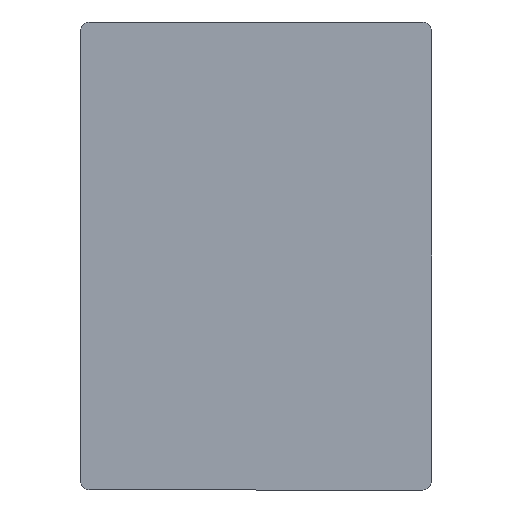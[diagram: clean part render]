
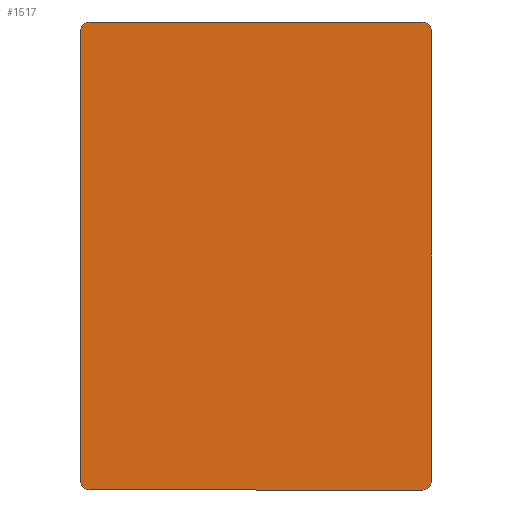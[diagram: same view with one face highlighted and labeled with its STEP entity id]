
A CAD part, left-side view. The second image highlights one B-rep face of the part: STEP entity #1517.
In plain terms, the highlighted planar face has unit normal (-1, 0, 0) as drawn and (0, 0, 1) by its records, which use the part's own axes.
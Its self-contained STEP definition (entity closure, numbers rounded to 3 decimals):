
#75=PLANE('',#1718);
#239=FACE_OUTER_BOUND('',#363,.T.);
#363=EDGE_LOOP('',(#1224,#1225,#1226,#1227,#1228,#1229,#1230,#1231));
#484=LINE('',#2593,#564);
#490=LINE('',#2617,#570);
#493=LINE('',#2625,#573);
#499=LINE('',#2653,#579);
#564=VECTOR('',#2005,10.);
#570=VECTOR('',#2029,10.);
#573=VECTOR('',#2038,10.);
#579=VECTOR('',#2074,10.);
#648=CIRCLE('',#1688,3.);
#655=CIRCLE('',#1698,3.);
#656=CIRCLE('',#1701,3.);
#659=CIRCLE('',#1706,3.);
#766=VERTEX_POINT('',#2580);
#767=VERTEX_POINT('',#2581);
#771=VERTEX_POINT('',#2591);
#779=VERTEX_POINT('',#2611);
#780=VERTEX_POINT('',#2615);
#781=VERTEX_POINT('',#2619);
#782=VERTEX_POINT('',#2623);
#785=VERTEX_POINT('',#2631);
#913=EDGE_CURVE('',#766,#767,#648,.T.);
#919=EDGE_CURVE('',#766,#771,#484,.T.);
#928=EDGE_CURVE('',#779,#771,#655,.T.);
#931=EDGE_CURVE('',#779,#780,#490,.T.);
#932=EDGE_CURVE('',#781,#780,#656,.T.);
#935=EDGE_CURVE('',#781,#782,#493,.T.);
#938=EDGE_CURVE('',#785,#782,#659,.T.);
#948=EDGE_CURVE('',#785,#767,#499,.T.);
#1224=ORIENTED_EDGE('',*,*,#913,.F.);
#1225=ORIENTED_EDGE('',*,*,#919,.T.);
#1226=ORIENTED_EDGE('',*,*,#928,.F.);
#1227=ORIENTED_EDGE('',*,*,#931,.T.);
#1228=ORIENTED_EDGE('',*,*,#932,.F.);
#1229=ORIENTED_EDGE('',*,*,#935,.T.);
#1230=ORIENTED_EDGE('',*,*,#938,.F.);
#1231=ORIENTED_EDGE('',*,*,#948,.T.);
#1517=ADVANCED_FACE('',(#239),#75,.T.);
#1688=AXIS2_PLACEMENT_3D('',#2582,#1995,#1996);
#1698=AXIS2_PLACEMENT_3D('',#2612,#2023,#2024);
#1701=AXIS2_PLACEMENT_3D('',#2620,#2032,#2033);
#1706=AXIS2_PLACEMENT_3D('',#2632,#2045,#2046);
#1718=AXIS2_PLACEMENT_3D('',#2654,#2075,#2076);
#1995=DIRECTION('center_axis',(0.,0.,-1.));
#1996=DIRECTION('ref_axis',(0.707,0.707,0.));
#2005=DIRECTION('',(-1.,0.,0.));
#2023=DIRECTION('center_axis',(0.,0.,-1.));
#2024=DIRECTION('ref_axis',(-0.707,0.707,0.));
#2029=DIRECTION('',(0.,-1.,0.));
#2032=DIRECTION('center_axis',(0.,0.,-1.));
#2033=DIRECTION('ref_axis',(-0.707,-0.707,0.));
#2038=DIRECTION('',(1.,0.,0.));
#2045=DIRECTION('center_axis',(0.,0.,-1.));
#2046=DIRECTION('ref_axis',(0.707,-0.707,0.));
#2074=DIRECTION('',(0.,1.,0.));
#2075=DIRECTION('center_axis',(0.,0.,1.));
#2076=DIRECTION('ref_axis',(1.,0.,0.));
#2580=CARTESIAN_POINT('',(-3.,120.,185.));
#2581=CARTESIAN_POINT('',(0.,117.,185.));
#2582=CARTESIAN_POINT('Origin',(-3.,117.,185.));
#2591=CARTESIAN_POINT('',(-157.,120.,185.));
#2593=CARTESIAN_POINT('',(-160.,120.,185.));
#2611=CARTESIAN_POINT('',(-160.,117.,185.));
#2612=CARTESIAN_POINT('Origin',(-157.,117.,185.));
#2615=CARTESIAN_POINT('',(-160.,3.,185.));
#2617=CARTESIAN_POINT('',(-160.,0.,185.));
#2619=CARTESIAN_POINT('',(-157.,0.,185.));
#2620=CARTESIAN_POINT('Origin',(-157.,3.,185.));
#2623=CARTESIAN_POINT('',(-3.,0.,185.));
#2625=CARTESIAN_POINT('',(0.,0.,185.));
#2631=CARTESIAN_POINT('',(0.,3.,185.));
#2632=CARTESIAN_POINT('Origin',(-3.,3.,185.));
#2653=CARTESIAN_POINT('',(0.,120.,185.));
#2654=CARTESIAN_POINT('Origin',(-80.,60.,185.));
